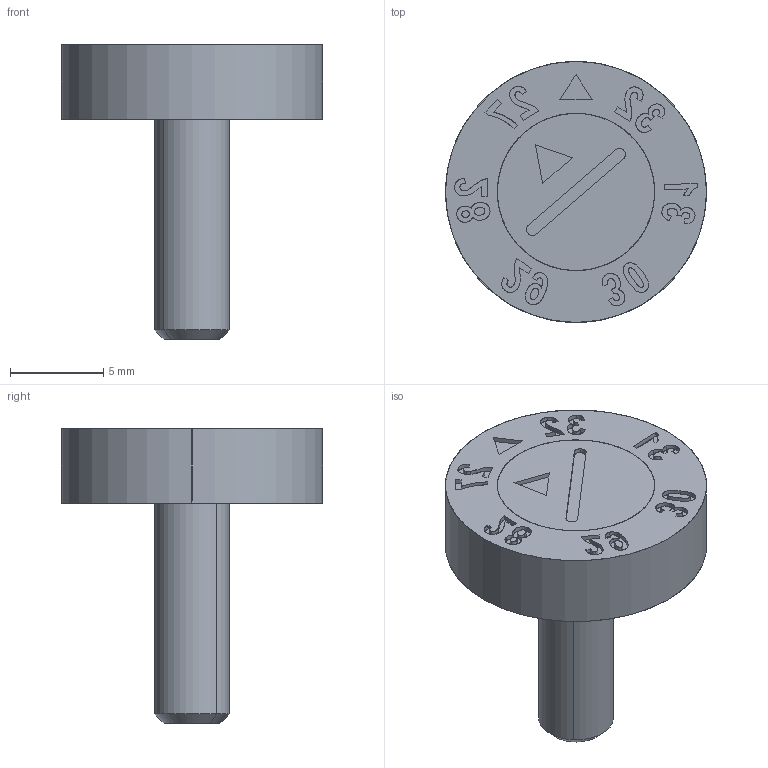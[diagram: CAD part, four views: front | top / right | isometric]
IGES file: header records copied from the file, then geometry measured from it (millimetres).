
Start section: SolidWorks IGES file using analytic representation for surfaces
Global section: file name: C:\temp\GO\Files\DMDLKP20-276.igs; native system: SolidWorks 2023; preprocessor: SolidWorks 2023; author: andrew.sweeney; date: 260123.155347; units: millimetre
Bounding box: 14 x 14 x 15.8 mm (x, y, z)
Surface area: 924.8 mm2 (no closed solid volume)
Topology: 0 solids, 0 shells, 203 faces, 2912 edges, 2910 vertices
Faces by surface type: bspline 187, revolution 16
